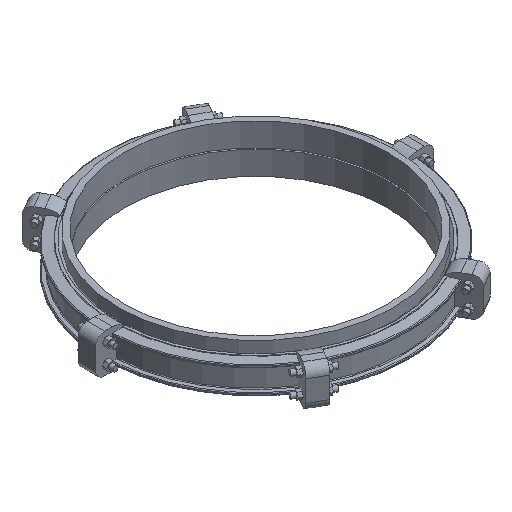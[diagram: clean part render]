
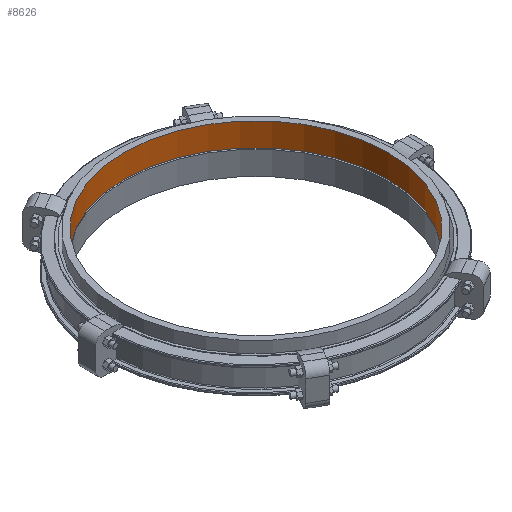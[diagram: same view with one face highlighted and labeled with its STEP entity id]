
A CAD part, isometric view. The second image highlights one B-rep face of the part: STEP entity #8626.
In plain terms, the highlighted cylindrical face has radius 1143 mm (diameter 2286 mm), a full revolution.
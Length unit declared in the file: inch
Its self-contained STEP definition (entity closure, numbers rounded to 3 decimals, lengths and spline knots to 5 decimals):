
#1061=FACE_OUTER_BOUND('',#1591,.T.);
#1591=EDGE_LOOP('',(#7599,#7600,#7601,#7602,#7603,#7604));
#2296=LINE('',#15701,#2999);
#2999=VECTOR('',#11744,45.);
#3316=CIRCLE('',#9483,45.);
#3317=CIRCLE('',#9484,45.);
#3318=CIRCLE('',#9486,45.);
#3319=CIRCLE('',#9487,45.);
#4104=VERTEX_POINT('',#15695);
#4105=VERTEX_POINT('',#15696);
#4106=VERTEX_POINT('',#15700);
#4107=VERTEX_POINT('',#15702);
#5270=EDGE_CURVE('',#4104,#4105,#3316,.T.);
#5271=EDGE_CURVE('',#4105,#4104,#3317,.T.);
#5272=EDGE_CURVE('',#4105,#4106,#2296,.T.);
#5273=EDGE_CURVE('',#4107,#4106,#3318,.T.);
#5274=EDGE_CURVE('',#4106,#4107,#3319,.T.);
#7599=ORIENTED_EDGE('',*,*,#5270,.T.);
#7600=ORIENTED_EDGE('',*,*,#5272,.T.);
#7601=ORIENTED_EDGE('',*,*,#5273,.F.);
#7602=ORIENTED_EDGE('',*,*,#5274,.F.);
#7603=ORIENTED_EDGE('',*,*,#5272,.F.);
#7604=ORIENTED_EDGE('',*,*,#5271,.T.);
#7715=CYLINDRICAL_SURFACE('',#9485,45.);
#8626=ADVANCED_FACE('',(#1061),#7715,.F.);
#9483=AXIS2_PLACEMENT_3D('',#15697,#11738,#11739);
#9484=AXIS2_PLACEMENT_3D('',#15698,#11740,#11741);
#9485=AXIS2_PLACEMENT_3D('',#15699,#11742,#11743);
#9486=AXIS2_PLACEMENT_3D('',#15703,#11745,#11746);
#9487=AXIS2_PLACEMENT_3D('',#15704,#11747,#11748);
#11738=DIRECTION('center_axis',(0.,0.,-1.));
#11739=DIRECTION('ref_axis',(1.,0.,0.));
#11740=DIRECTION('center_axis',(0.,0.,-1.));
#11741=DIRECTION('ref_axis',(1.,0.,0.));
#11742=DIRECTION('center_axis',(0.,0.,-1.));
#11743=DIRECTION('ref_axis',(0.,1.,0.));
#11744=DIRECTION('',(0.,0.,1.));
#11745=DIRECTION('center_axis',(0.,0.,-1.));
#11746=DIRECTION('ref_axis',(1.,0.,0.));
#11747=DIRECTION('center_axis',(0.,0.,-1.));
#11748=DIRECTION('ref_axis',(1.,0.,0.));
#15695=CARTESIAN_POINT('',(0.,45.,0.));
#15696=CARTESIAN_POINT('',(0.,-45.,0.));
#15697=CARTESIAN_POINT('Origin',(0.,0.,0.));
#15698=CARTESIAN_POINT('Origin',(0.,0.,0.));
#15699=CARTESIAN_POINT('Origin',(0.,0.,4.));
#15700=CARTESIAN_POINT('',(0.,-45.,8.));
#15701=CARTESIAN_POINT('',(0.,-45.,4.));
#15702=CARTESIAN_POINT('',(0.,45.,8.));
#15703=CARTESIAN_POINT('Origin',(0.,0.,8.));
#15704=CARTESIAN_POINT('Origin',(0.,0.,8.));
